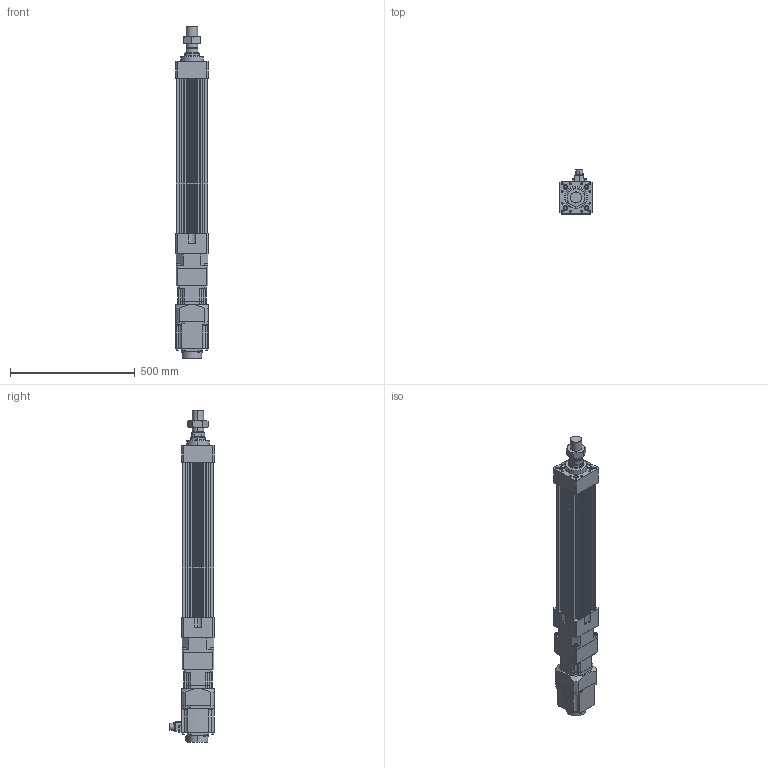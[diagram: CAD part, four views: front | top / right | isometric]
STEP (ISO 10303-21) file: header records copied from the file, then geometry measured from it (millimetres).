
FILE_DESCRIPTION (( 'STEP AP203' ), '1' );
FILE_NAME ('HES130NS(FS)(HS)-S400-W015G00-M.STEP', '2023-01-30T08:12:41', ( 'tms' ), ( '' ), 'SwSTEP 2.0', 'SolidWorks 2013', '' );
FILE_SCHEMA (( 'CONFIG_CONTROL_DESIGN' ));
Length unit declared in the file: millimetre
Products named in the file (8): HES130 ROD M ST400; AB115-003[HG-SR152]; M45X1.5P; P0401400706; HG-SR152; AB1151; HES130-S400-G120; HES130NS(FS)(HS)-S400-W015G00-M
Assembly tree (7 placements, depth 3):
  HES130NS(FS)(HS)-S400-W015G00-M
    HES130-S400-G120
    HES130 ROD M ST400
    M45X1.5P
    AB115-003[HG-SR152]
      AB1151
      P0401400706
    HG-SR152
Bounding box: 130 x 177.49 x 1329.5 mm (x, y, z)
Volume: 10358770.3 mm3; surface area: 1328166.9 mm2
Topology: 4 solids, 15 shells, 1220 faces, 3076 edges, 1983 vertices
Faces by surface type: cylinder 553, plane 551, cone 104, bspline 8, torus 4
Entity records: 38254 total; most frequent: CARTESIAN_POINT 7242, DIRECTION 6653, ORIENTED_EDGE 6060, EDGE_CURVE 3040, AXIS2_PLACEMENT_3D 2462, VERTEX_POINT 1983, LINE 1729, VECTOR 1729
